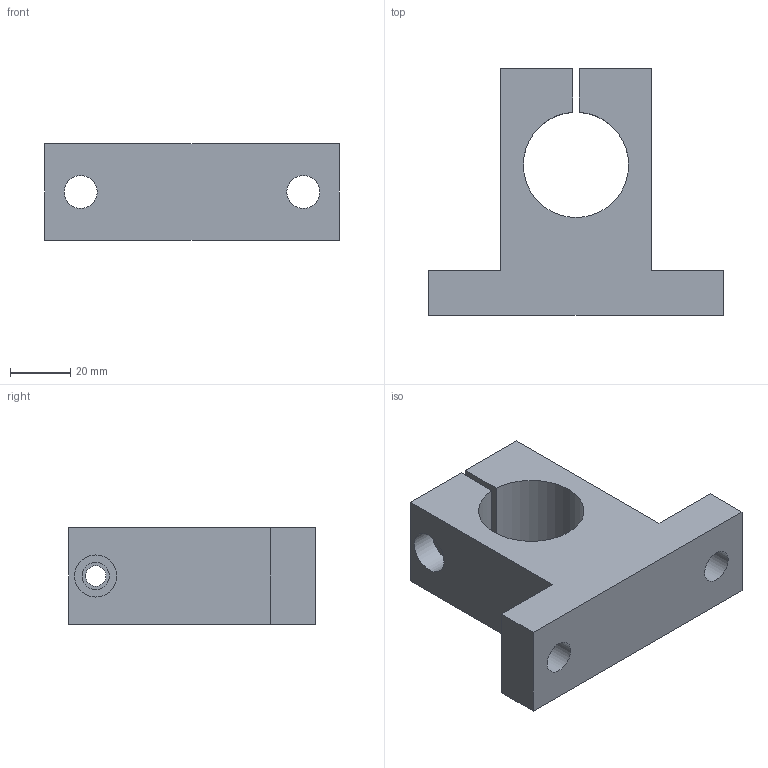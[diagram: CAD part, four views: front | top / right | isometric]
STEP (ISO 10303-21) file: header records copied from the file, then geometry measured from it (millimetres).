
FILE_DESCRIPTION(/* description */ ('Unknown'),/* implementation_level */ '2;1');
FILE_NAME(/* name */ 'SK35',/* time_stamp */ '2025-02-04T09:05:34+08:00',/* author */ ('Unknown'),/* organization */ ('Unknown'),/* preprocessor_version */ 'ST-DEVELOPER v18.102',/* originating_system */ 'Solid Edge',/* authorisation */ 'Unknown');
FILE_SCHEMA (('AUTOMOTIVE_DESIGN {1 0 10303 214 3 1 1}'));
Length unit declared in the file: millimetre
Products named in the file (1): SK35
Bounding box: 98 x 82 x 32 mm (x, y, z)
Volume: 116506.6 mm3; surface area: 25279.6 mm2
Topology: 1 solids, 1 shells, 20 faces, 52 edges, 35 vertices
Faces by surface type: plane 14, cylinder 6
Full cylindrical faces by diameter (mm): 6.8 x1, 9 x1, 11 x2, 14 x1
Entity records: 628 total; most frequent: CARTESIAN_POINT 101, DIRECTION 100, ORIENTED_EDGE 92, EDGE_CURVE 46, VERTEX_POINT 34, LINE 34, VECTOR 34, EDGE_LOOP 34
